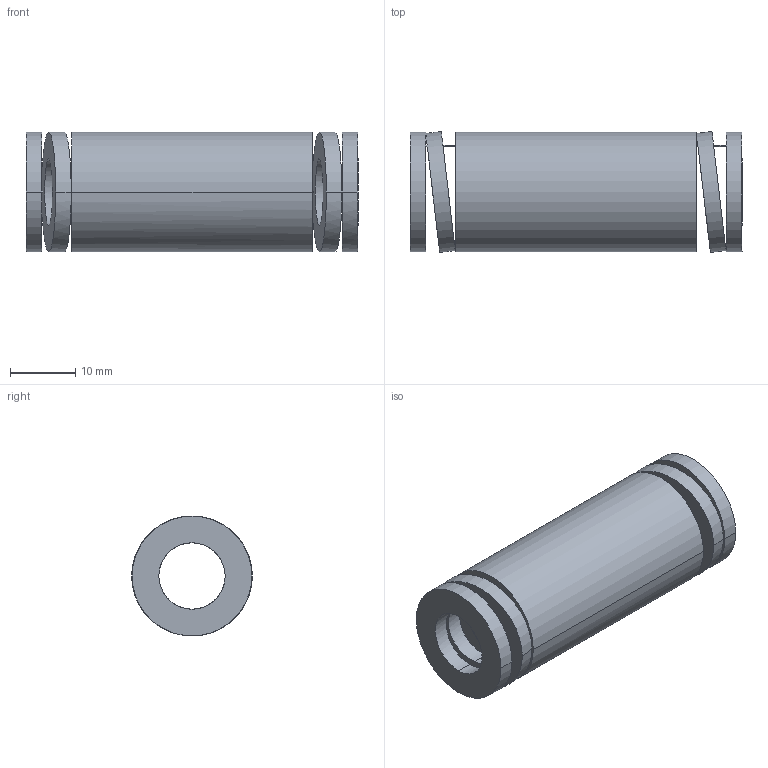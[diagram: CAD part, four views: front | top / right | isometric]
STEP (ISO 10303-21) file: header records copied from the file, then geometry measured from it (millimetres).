
FILE_DESCRIPTION(('CATIA V5 STEP Exchange'),'2;1');
FILE_NAME('C:\Users\Utente\Desktop\IO LAVORO\3D X SITO CF\X SITO\3D files 392B\392-B20-051.stp','2021-08-12T13:57:01+00:00',('none'),('none'),'CATIA Version 5 Release 20 GA (IN-10)','CATIA V5 STEP AP203','none');
FILE_SCHEMA(('CONFIG_CONTROL_DESIGN'));
Length unit declared in the file: millimetre
Products named in the file (1): 392-B20-051
Bounding box: 51 x 18.55 x 18.4 mm (x, y, z)
Volume: 8573.4 mm3; surface area: 6026.6 mm2
Topology: 1 solids, 1 shells, 38 faces, 92 edges, 64 vertices
Faces by surface type: cylinder 28, plane 10
Entity records: 1602 total; most frequent: CARTESIAN_POINT 721, ORIENTED_EDGE 184, DIRECTION 125, EDGE_CURVE 92, VERTEX_POINT 64, AXIS2_PLACEMENT_3D 60, EDGE_LOOP 56, B_SPLINE_CURVE_WITH_KNOTS 43
